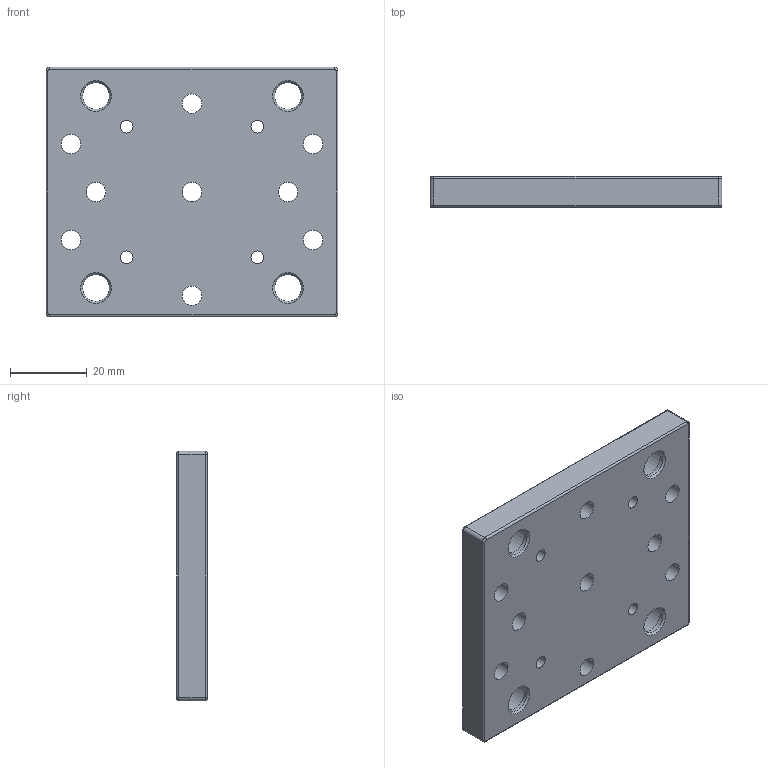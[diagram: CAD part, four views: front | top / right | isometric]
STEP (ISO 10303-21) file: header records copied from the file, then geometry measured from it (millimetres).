
FILE_DESCRIPTION (( 'STEP AP203' ), '1' );
FILE_NAME ('SB-4.step', '2017-01-11T07:28:19', ( '¦K¬P' ), ( '' ), 'SwSTEP 2.0', 'SolidWorks 2012', '' );
FILE_SCHEMA (( 'CONFIG_CONTROL_DESIGN' ));
Length unit declared in the file: millimetre
Products named in the file (1): SB-4
Bounding box: 76 x 8 x 65 mm (x, y, z)
Volume: 35064.6 mm3; surface area: 13699.8 mm2
Topology: 1 solids, 1 shells, 59 faces, 156 edges, 103 vertices
Faces by surface type: cylinder 33, plane 10, torus 8, cone 8
Full cylindrical faces by diameter (mm): 3.3 x4, 5 x9, 7 x4, 11 x4
Entity records: 1679 total; most frequent: DIRECTION 308, CARTESIAN_POINT 248, ORIENTED_EDGE 212, AXIS2_PLACEMENT_3D 142, EDGE_LOOP 126, EDGE_CURVE 106, VERTEX_POINT 82, CIRCLE 82
